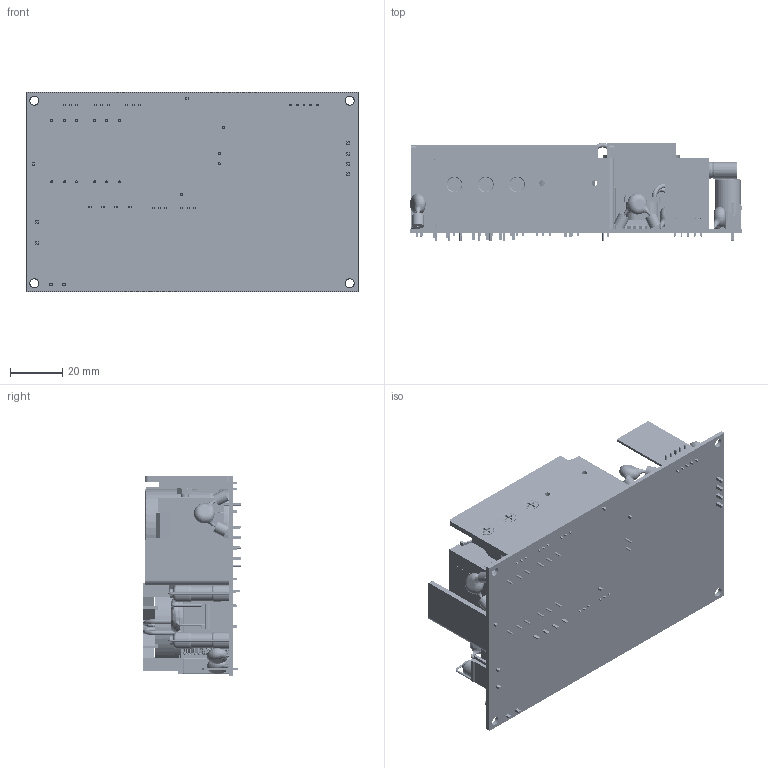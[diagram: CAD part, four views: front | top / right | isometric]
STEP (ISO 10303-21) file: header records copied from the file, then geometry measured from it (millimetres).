
FILE_DESCRIPTION (( 'STEP AP214' ), '1' );
FILE_NAME ('ECH450PS36_56.STEP', '2020-04-07T13:51:37', ( '' ), ( '' ), 'SwSTEP 2.0', 'SolidWorks 2018', '' );
FILE_SCHEMA (( 'AUTOMOTIVE_DESIGN' ));
Length unit declared in the file: inch
Products named in the file (43): L201; C3; 3PIN_PITCH2_0; T1; 86K18N60M2_Q2Q3; 16X9X9; C21; ECH450_PCB; L2; 3320030082_M3X8; GLASS_TYPE; 6_3X11; 5_2X10_5; RIGHT_ANGLE; JST_B4P0_VH; 85D7BU8061_BD1; T201; 8X16; L301; ECH450_Heatsink_2; 32_5X28X30_5; PCB2; C19; 830A6069HZ; F540_SMALL_PCB1; LDPIN01; TEMP; 58C77-1025_Y1_BEADCORE; 58C77-1025_Y1; C30; ECH450_Heatsink_ASM2; HEADER_R36BA37_001; ECH450PS36_56; ECH450_Heatsink_1; 11X6_5X5; 3340030201_M3NUT; 10X19_2; 21014-0030_FG; CAP_30X32MM; ECH450_Heatsink_ASM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
Assembly tree (71 placements, depth 3):
  ECH450PS36_56
    ECH450_PCB
    ECH450_Heatsink_ASM
      ECH450_Heatsink_1
      LDPIN01  x2
    ECH450_Heatsink_ASM2
      ECH450_Heatsink_2
      LDPIN01  x2
    JST_B3P2_VH
    21014-0030_FG
    CAP_30X32MM
    85D7BU8061_BD1
    86K18N60M2_Q2Q3  x5
    3320030082_M3X8  x6
    3340030201_M3NUT  x6
    58C77-1025_Y1_BEADCORE  x2
    830A6069HZ
    58C77-1025_Y1  x4
    C21  x2
    C3
    C19
    11X6_5X5
    L2
    RIGHT_ANGLE
    16X9X9
    GLASS_TYPE  x2
    32_5X28X30_5
    R3140104045_CN2  x2
    10X19_2  x3
    8X16
    TEMP
    PCB2
    HEADER_R36BA37_001
    L301
    C30
    T201
    T1
    3PIN_PITCH2_0
    JST_B4P0_VH
    6_3X6
    5_2X10_5
    L201
    6_3X11  x4
    F540_SMALL_PCB1
Bounding box: 127 x 37.6 x 76.2 mm (x, y, z)
Volume: 107728 mm3; surface area: 93938.7 mm2
Topology: 85 solids, 87 shells, 3279 faces, 7718 edges, 4652 vertices
Faces by surface type: plane 1494, bspline 1298, cylinder 355, cone 120, torus 12
Entity records: 189362 total; most frequent: CARTESIAN_POINT 134717, ORIENTED_EDGE 11896, DIRECTION 9483, EDGE_CURVE 5951, VERTEX_POINT 3554, AXIS2_PLACEMENT_3D 3324, LINE 2835, VECTOR 2835
